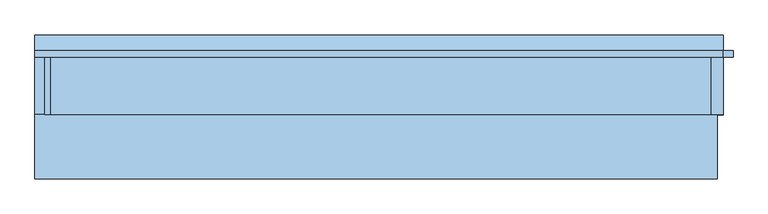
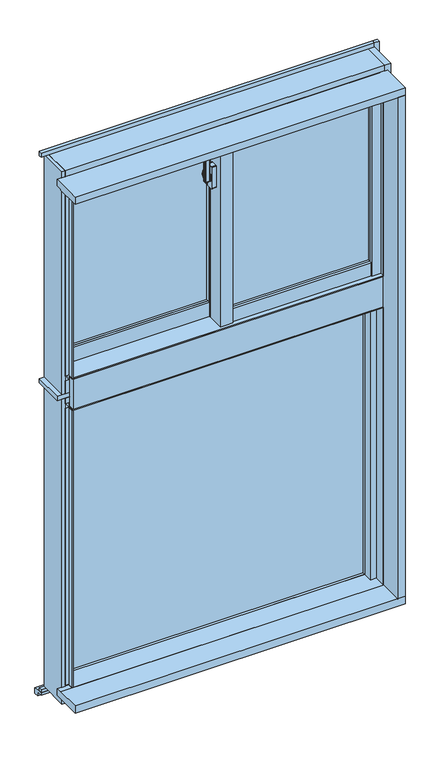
"""IFC4 building model written with IfcOpenShell, lengths in millimetres: window geometry, FNSⅡ100R_非防火_ALC枠_段窓_分解無目 : 隠蔽突出排煙/FIX."""

import ifcopenshell
import ifcopenshell.guid

model = None  # the IFC model being written
_history = None  # IfcOwnerHistory: only IFC2X3 demands one
_inside = {}  # id of a spatial element -> (the spatial element, [elements in it])
_under = {}  # id of a project, library or spatial element -> (it, [spatial elements below it])
_declared = {}  # id of a project -> (the project, [libraries it declares])
_typed = {}  # id of a type object -> (the type object, [elements of that type])
_made_of = {}  # id of a material, layer set ... -> (it, [elements and type objects made of it])


def new_model(schema):
    """Start an empty IFC model of exactly this schema.

    Asked for "IFC4X3", IfcOpenShell would pick the latest addendum, in which some entities
    have other attributes; the version numbers below select the first issue.
    IFC2X3 requires an IfcOwnerHistory on every rooted entity: one is made here for all.
    """
    global model, _history
    if schema == "IFC4X3":
        model = ifcopenshell.file(schema_version=(4, 3, 0, 0))
    else:
        model = ifcopenshell.file(schema=schema)
    _inside.clear()
    _under.clear()
    _declared.clear()
    _typed.clear()
    _made_of.clear()
    _history = None
    if model.schema == "IFC2X3":
        org = make("IfcOrganization", Name="unknown")
        user = make(
            "IfcPersonAndOrganization",
            ThePerson=make("IfcPerson", FamilyName="unknown"),
            TheOrganization=org,
        )
        app = make(
            "IfcApplication",
            ApplicationDeveloper=org,
            Version="unknown",
            ApplicationFullName="unknown",
            ApplicationIdentifier="unknown",
        )
        _history = make(
            "IfcOwnerHistory",
            OwningUser=user,
            OwningApplication=app,
            ChangeAction="ADDED",
            CreationDate=0,
        )
    return model


def make(cls, **values):
    """One entity of the class cls with the attributes given. An attribute that is None is left unset."""
    return model.create_entity(
        cls, **{name: value for name, value in values.items() if value is not None}
    )


def rooted(cls, **values):
    """An entity with a GlobalId (a new one), such as an element, a storey or a relation."""
    return make(cls, GlobalId=ifcopenshell.guid.new(), OwnerHistory=_history, **values)


def si_unit(unit_type, name, prefix=None):
    """IfcSIUnit, for example si_unit("LENGTHUNIT", "METRE", prefix="MILLI")."""
    return make("IfcSIUnit", UnitType=unit_type, Prefix=prefix, Name=name)


def assignment(units):
    """IfcUnitAssignment: the units of a project."""
    return None if units is None else make("IfcUnitAssignment", Units=units)


def point(xyz):
    """IfcCartesianPoint."""
    return None if xyz is None else make("IfcCartesianPoint", Coordinates=xyz)


def direction(xyz):
    """IfcDirection."""
    return None if xyz is None else make("IfcDirection", DirectionRatios=xyz)


def frame(location, z_axis=None, x_axis=None):
    """IfcAxis2Placement3D, a coordinate frame: its origin and axes. An axis left out is left unset."""
    return make(
        "IfcAxis2Placement3D",
        Location=point(location),
        Axis=direction(z_axis),
        RefDirection=direction(x_axis),
    )


def frame_2d(location, x_axis=None):
    """IfcAxis2Placement2D, a coordinate frame in the plane: its origin and x axis."""
    return make(
        "IfcAxis2Placement2D", Location=point(location), RefDirection=direction(x_axis)
    )


def origin():
    """The frame at (0, 0, 0) with its axes left unset."""
    return frame((0.0, 0.0, 0.0))


def place(relative_to, where):
    """IfcLocalPlacement: puts the frame where relative to a parent placement (None: the world)."""
    return make(
        "IfcLocalPlacement", PlacementRelTo=relative_to, RelativePlacement=where
    )


def context(
    kind, dimensions, precision=None, world=None, true_north=None, identifier=None
):
    """IfcGeometricRepresentationContext, for example the 3D "Model" context."""
    return make(
        "IfcGeometricRepresentationContext",
        ContextIdentifier=identifier,
        ContextType=kind,
        CoordinateSpaceDimension=dimensions,
        Precision=precision,
        WorldCoordinateSystem=world,
        TrueNorth=true_north,
    )


def project(units=None, contexts=None):
    """IfcProject with its units and contexts."""
    return rooted(
        "IfcProject",
        Name="project",
        RepresentationContexts=contexts,
        UnitsInContext=assignment(units),
    )


def spatial(cls, under=None, at=None, **own):
    """A site, building, storey or space (cls), placed at a placement, below another one or the project."""
    s = rooted(cls, ObjectPlacement=at, **own)
    if under is not None:
        _under.setdefault(under.id(), (under, []))[1].append(s)
    return s


def polyline(points):
    """IfcPolyline through the points."""
    return make("IfcPolyline", Points=[point(p) for p in points])


def circle_curve(where, radius):
    """IfcCircle in the frame where."""
    return make("IfcCircle", Position=where, Radius=radius)


def trimmed(basis, trim1, trim2, sense, master):
    """IfcTrimmedCurve: the piece of a basis curve between two trims."""
    return make(
        "IfcTrimmedCurve",
        BasisCurve=basis,
        Trim1=trim1,
        Trim2=trim2,
        SenseAgreement=sense,
        MasterRepresentation=master,
    )


def segment(curve, same_sense, transition):
    """IfcCompositeCurveSegment."""
    return make(
        "IfcCompositeCurveSegment",
        Transition=transition,
        SameSense=same_sense,
        ParentCurve=curve,
    )


def composite_curve(segments, self_intersect=None):
    """IfcCompositeCurve: segments joined end to end."""
    return make("IfcCompositeCurve", Segments=segments, SelfIntersect=self_intersect)


def outline(outer, holes=None, kind="AREA"):
    """IfcArbitraryClosedProfileDef: a profile drawn as a closed curve; with holes, ...WithVoids."""
    if holes is None:
        return make("IfcArbitraryClosedProfileDef", ProfileType=kind, OuterCurve=outer)
    return make(
        "IfcArbitraryProfileDefWithVoids",
        ProfileType=kind,
        OuterCurve=outer,
        InnerCurves=holes,
    )


def extrude(swept, where, along, depth):
    """IfcExtrudedAreaSolid: the profile swept, set in the frame where, extruded along a direction by depth."""
    return make(
        "IfcExtrudedAreaSolid",
        SweptArea=swept,
        Position=where,
        ExtrudedDirection=direction(along),
        Depth=depth,
    )


def faces_of(points, faces, orient=None, outer=None):
    """IfcFace entities. A face is a list of loops; a loop is a list of indices into points, from 0.

    orient and outer hold one flag for each loop. By default every Orientation is true, the
    first loop of a face is its IfcFaceOuterBound and the others are IfcFaceBound.
    """
    made = []
    for i, loops in enumerate(faces):
        bounds = []
        for j, loop in enumerate(loops):
            is_outer = j == 0 if outer is None else outer[i][j]
            bounds.append(
                make(
                    "IfcFaceOuterBound" if is_outer else "IfcFaceBound",
                    Bound=make("IfcPolyLoop", Polygon=[points[k] for k in loop]),
                    Orientation=True if orient is None else orient[i][j],
                )
            )
        made.append(make("IfcFace", Bounds=bounds))
    return made


def faceted_brep(points, faces, orient=None, outer=None, voids=None):
    """IfcFacetedBrep: a solid bounded by flat faces; with voids (closed shells), ...WithVoids."""
    shared = [point(p) for p in points]
    hull = make("IfcClosedShell", CfsFaces=faces_of(shared, faces, orient, outer))
    if voids is None:
        return make("IfcFacetedBrep", Outer=hull)
    return make(
        "IfcFacetedBrepWithVoids",
        Outer=hull,
        Voids=[
            make(cls, CfsFaces=faces_of(shared, fs, o, b)) for cls, fs, o, b in voids
        ],
    )


def shape(context_of_items, identifier, shape_type, items):
    """IfcShapeRepresentation: the items that make up one representation, for example the "Body"."""
    return make(
        "IfcShapeRepresentation",
        ContextOfItems=context_of_items,
        RepresentationIdentifier=identifier,
        RepresentationType=shape_type,
        Items=items,
    )


def source(mapping_origin, context_of_items, identifier, shape_type, items):
    """IfcRepresentationMap: a shape defined once, which mapped items show again and again."""
    return make(
        "IfcRepresentationMap",
        MappingOrigin=mapping_origin,
        MappedRepresentation=shape(context_of_items, identifier, shape_type, items),
    )


def transform(
    local_origin,
    x_axis=None,
    y_axis=None,
    z_axis=None,
    scale=None,
    scale2=None,
    scale3=None,
    uniform=True,
):
    """IfcCartesianTransformationOperator3D, or its non-uniform kind. x_axis, y_axis, z_axis: its Axis1, 2, 3."""
    if uniform:
        return make(
            "IfcCartesianTransformationOperator3D",
            Axis1=direction(x_axis),
            Axis2=direction(y_axis),
            LocalOrigin=point(local_origin),
            Scale=scale,
            Axis3=direction(z_axis),
        )
    return make(
        "IfcCartesianTransformationOperator3DnonUniform",
        Axis1=direction(x_axis),
        Axis2=direction(y_axis),
        LocalOrigin=point(local_origin),
        Scale=scale,
        Axis3=direction(z_axis),
        Scale2=scale2,
        Scale3=scale3,
    )


def mapped(mapping_source, mapping_target):
    """IfcMappedItem: shows the shape of a source again, moved by a transform."""
    return make(
        "IfcMappedItem", MappingSource=mapping_source, MappingTarget=mapping_target
    )


def made_of(thing, what):
    """Note that an element or type object is made of a material, layer set ...; save() writes the relation."""
    if what is not None:
        _made_of.setdefault(what.id(), (what, []))[1].append(thing)
    return thing


def element(
    cls,
    number,
    at=None,
    inside=None,
    cuts=None,
    type_object=None,
    material=None,
    context=None,
    identifier="Body",
    shape_type=None,
    held_by="IfcProductDefinitionShape",
    body=None,
    shapes=None,
    **own,
):
    """One element of the class cls, such as IfcWall. Its Tag is "e" and its number.

    at: its placement. inside: the storey or other place that contains it. cuts: it is an
    opening in that element (IfcRelVoidsElement). A single representation is given by context,
    identifier, shape_type and body (its items); several are given by shapes. held_by: the class
    of the entity that holds the representations. save() writes the other relations.
    """
    e = rooted(cls, Tag="e%d" % number, ObjectPlacement=at, **own)
    if body is not None:
        shapes = [shape(context, identifier, shape_type, body)]
    if shapes is not None:
        e.Representation = make(held_by, Representations=shapes)
    if inside is not None:
        _inside.setdefault(inside.id(), (inside, []))[1].append(e)
    if cuts is not None:
        rooted(
            "IfcRelVoidsElement", RelatingBuildingElement=cuts, RelatedOpeningElement=e
        )
    if type_object is not None:
        _typed.setdefault(type_object.id(), (type_object, []))[1].append(e)
    return made_of(e, material)


def aggregate(whole, parts):
    """IfcRelAggregates: a whole, such as a stair, and the parts it consists of."""
    return rooted("IfcRelAggregates", RelatingObject=whole, RelatedObjects=parts)


def save(model, path):
    """Write the relations noted so far, then the file.

    IfcRelAggregates (storeys below a building ...), IfcRelContainedInSpatialStructure (elements
    in a storey), IfcRelDefinesByType, IfcRelAssociatesMaterial and IfcRelDeclares: one each for
    every whole, place, type object, material and project.
    """
    for whole, parts in _under.values():
        aggregate(whole, parts)
    for where, things in _inside.values():
        rooted(
            "IfcRelContainedInSpatialStructure",
            RelatedElements=things,
            RelatingStructure=where,
        )
    for kind, things in _typed.values():
        rooted("IfcRelDefinesByType", RelatedObjects=things, RelatingType=kind)
    for what, things in _made_of.values():
        rooted("IfcRelAssociatesMaterial", RelatedObjects=things, RelatingMaterial=what)
    for by, libraries in _declared.values():
        rooted("IfcRelDeclares", RelatingContext=by, RelatedDefinitions=libraries)
    model.write(path)


def plane_surface(at):
    """IfcPlane: the flat surface through the origin of the frame at, square to its z axis."""
    return make("IfcPlane", Position=at)


def cylinder_surface(at, radius):
    """IfcCylindricalSurface: all points at the distance radius from the z axis of the frame at."""
    return make("IfcCylindricalSurface", Position=at, Radius=radius)


def revolved_surface(curve, axis_point, axis_direction):
    """IfcSurfaceOfRevolution: the curve turned about the line through axis_point along axis_direction."""
    return make(
        "IfcSurfaceOfRevolution",
        SweptCurve=make("IfcArbitraryOpenProfileDef", ProfileType="CURVE", Curve=curve),
        AxisPosition=make("IfcAxis1Placement", Location=point(axis_point), Axis=direction(axis_direction)),
    )


def advanced_brep(points, edges, surfaces, faces):
    """IfcAdvancedBrep: a solid bounded by faces that lie on surfaces and meet in shared edges.

    An edge is (start, end): straight between two places in points (the first is 0);
    or (start, end, curve); or (start, end, curve, False) where it runs against its curve.
    A face is (place in surfaces, loops), or (place, loops, False) where it looks against
    its surface's normal. A loop lists edges by number (the first is 1), with a minus sign
    where the edge is run from its end to its start. The first loop is the outer one.
    """
    corners = [point(p) for p in points]
    vertices = [make("IfcVertexPoint", VertexGeometry=c) for c in corners]
    made = []
    for start, end, *more in edges:
        made.append(
            make(
                "IfcEdgeCurve",
                EdgeStart=vertices[start],
                EdgeEnd=vertices[end],
                EdgeGeometry=more[0] if more else make("IfcPolyline", Points=[corners[start], corners[end]]),
                SameSense=more[1] if len(more) > 1 else True,
            )
        )
    hull = []
    for where, loops, *sense in faces:
        bounds = []
        for j, loop in enumerate(loops):
            ring = [make("IfcOrientedEdge", EdgeElement=made[abs(k) - 1], Orientation=k > 0) for k in loop]
            bounds.append(
                make(
                    "IfcFaceOuterBound" if j == 0 else "IfcFaceBound",
                    Bound=make("IfcEdgeLoop", EdgeList=ring),
                    Orientation=True,
                )
            )
        hull.append(make("IfcAdvancedFace", Bounds=bounds, FaceSurface=surfaces[where], SameSense=sense[0] if sense else True))
    return make("IfcAdvancedBrep", Outer=make("IfcClosedShell", CfsFaces=hull))


def window_ff05695f(model_context):
    return source(origin(), model_context, "Body", "SolidModel", [
        extrude(outline(composite_curve([segment(polyline([(-39.0, 14.6), (-39.0, 6.4)]), True, "CONTINUOUS"), segment(trimmed(circle_curve(frame_2d((-41.0, 6.4)), 2.0), [point((-39.0, 6.4))], [point((-41.3606557, 4.4327869))], False, "CARTESIAN"), True, "CONTINUOUS"), segment(polyline([(-41.3606557, 4.4327869), (-52.3606557, 6.4494536)]), True, "CONTINUOUS"), segment(trimmed(circle_curve(frame_2d((-52.0, 8.4166667)), 2.0), [point((-52.3606557, 6.4494536))], [point((-54.0, 8.4166667))], False, "CARTESIAN"), True, "CONTINUOUS"), segment(polyline([(-54.0, 8.4166667), (-54.0, 12.5833333)]), True, "CONTINUOUS"), segment(trimmed(circle_curve(frame_2d((-52.0, 12.5833333)), 2.0), [point((-54.0, 12.5833333))], [point((-52.3606557, 14.5505464))], False, "CARTESIAN"), True, "CONTINUOUS"), segment(polyline([(-52.3606557, 14.5505464), (-41.3606557, 16.5672131)]), True, "CONTINUOUS"), segment(trimmed(circle_curve(frame_2d((-41.0, 14.6)), 2.0), [point((-41.3606557, 16.5672131))], [point((-39.0, 14.6))], False, "CARTESIAN"), True, "CONTINUOUS")], self_intersect=False)), frame((0.0, 0.0, 2445.0), z_axis=(0.0, 0.0, 1.0), x_axis=(1.0, 0.0, 0.0)), (0.0, 0.0, 1.0), 100.0),
        advanced_brep(
        [(-37.5, 18.8234285, 2476.7333311), (-45.5, 18.8234285, 2476.7333311), (-45.5, 18.4351999, 2475.2844424), (-39.0, 18.4351999, 2475.2844424), (-39.0, 16.6234666, 2468.5229616), (-37.5, 16.6234666, 2468.5229616), (-39.0, 16.6466117, 2434.3190372), (-45.5, 16.6466117, 2434.3190372), (-45.5, 16.907084, 2432.8418256), (-37.5, 16.907084, 2432.8418256), (-37.5, 15.4310745, 2441.2126915), (-39.0, 15.4310745, 2441.2126915)],
        [
            (0, 1),
            (1, 2),
            (2, 3),
            (3, 4),
            (4, 5),
            (5, 0),
            (6, 7),
            (7, 8),
            (8, 9),
            (9, 10),
            (10, 11),
            (11, 6),
            (0, 9, circle_curve(frame((-37.5, 13.0, 2455.0), z_axis=(-1.0, 0.0, 0.0), x_axis=(0.0, 0.25881904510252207, 0.965925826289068)), 22.5)),
            (8, 1, circle_curve(frame((-45.5, 13.0, 2455.0), z_axis=(1.0, 0.0, 0.0), x_axis=(0.0, 0.25881904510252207, 0.965925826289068)), 22.5)),
            (7, 2, circle_curve(frame((-45.5, 13.0, 2455.0), z_axis=(1.0, 0.0, 0.0), x_axis=(0.0, 0.25881904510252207, 0.965925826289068)), 21.0)),
            (6, 3, circle_curve(frame((-39.0, 13.0, 2455.0), z_axis=(1.0, 0.0, 0.0), x_axis=(0.0, 0.25881904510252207, 0.965925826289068)), 21.0)),
            (11, 4, circle_curve(frame((-39.0, 13.0, 2455.0), z_axis=(-1.0, 0.0, 0.0), x_axis=(0.0, -1.0, 0.0)), 14.0)),
            (5, 10, circle_curve(frame((-37.5, 13.0, 2455.0), z_axis=(1.0, 0.0, 0.0), x_axis=(0.0, -1.0, 0.0)), 14.0)),
        ],
        [
            plane_surface(frame((-43.5470497, 13.0, 2455.0), z_axis=(0.0, -0.965925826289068, 0.25881904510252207), x_axis=(0.0, 0.25881904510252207, 0.965925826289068))),
            plane_surface(frame((-43.5470497, 13.0, 2455.0), z_axis=(0.0, -0.9848077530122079, -0.17364817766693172), x_axis=(0.0, 0.17364817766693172, -0.9848077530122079))),
            cylinder_surface(frame((-43.5470497, 13.0, 2455.0), z_axis=(-1.0, 0.0, 0.0), x_axis=(0.0, 0.25881904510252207, 0.965925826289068)), 22.5),
            plane_surface(frame((-45.5, 13.0, 2455.0), z_axis=(-1.0, 0.0, 0.0), x_axis=(0.0, 0.25881904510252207, 0.965925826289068))),
            revolved_surface(polyline([(-45.5, 18.435199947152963, 2475.2844423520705), (-39.0, 18.435199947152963, 2475.2844423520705)]), (-43.5470497, 13.0, 2455.0), (-1.0, 0.0, 0.0)),
            plane_surface(frame((-39.0, 13.0, 2455.0), z_axis=(-1.0, 0.0, 0.0), x_axis=(0.0, 0.25881904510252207, 0.965925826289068))),
            plane_surface(frame((-37.5, 13.0, 2455.0), z_axis=(1.0, 0.0, 0.0), x_axis=(0.0, 0.25881904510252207, 0.965925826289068))),
            cylinder_surface(frame((-37.5, 13.0, 2455.0), z_axis=(-1.0, 0.0, 0.0), x_axis=(0.0, -1.0, 0.0)), 14.0),
        ],
        [
            (0, [[1, 2, 3, 4, 5, 6]]),
            (1, [[7, 8, 9, 10, 11, 12]]),
            (2, [[-1, 13, -9, 14]]),
            (3, [[-2, -14, -8, 15]]),
            (4, [[-3, -15, -7, 16]]),
            (5, [[-16, -12, 17, -4]]),
            (6, [[-13, -6, 18, -10]]),
            (7, [[-17, -11, -18, -5]]),
        ],
    ),
        extrude(outline(composite_curve([segment(trimmed(circle_curve(frame_2d((13.0, 2455.0)), 11.5), [point((24.5, 2455.0))], [point((1.5, 2455.0))], False, "CARTESIAN"), True, "CONTINUOUS"), segment(trimmed(circle_curve(frame_2d((13.0, 2455.0)), 11.5), [point((1.5, 2455.0))], [point((24.5, 2455.0))], False, "CARTESIAN"), True, "CONTINUOUS")], self_intersect=False)), frame((-37.5, 0.0, 0.0), z_axis=(1.0, 0.0, 0.0), x_axis=(0.0, 1.0, 0.0)), (0.0, 0.0, 1.0), 2.5),
        extrude(outline(composite_curve([segment(polyline([(4.0, 2492.5), (22.0, 2492.5)]), True, "CONTINUOUS"), segment(trimmed(circle_curve(frame_2d((22.0, 2490.5)), 2.0), [point((22.0, 2492.5))], [point((24.0, 2490.5))], False, "CARTESIAN"), True, "CONTINUOUS"), segment(polyline([(24.0, 2490.5), (24.0, 2419.5)]), True, "CONTINUOUS"), segment(trimmed(circle_curve(frame_2d((22.0, 2419.5)), 2.0), [point((24.0, 2419.5))], [point((22.0, 2417.5))], False, "CARTESIAN"), True, "CONTINUOUS"), segment(polyline([(22.0, 2417.5), (4.0, 2417.5)]), True, "CONTINUOUS"), segment(trimmed(circle_curve(frame_2d((4.0, 2419.5)), 2.0), [point((4.0, 2417.5))], [point((2.0, 2419.5))], False, "CARTESIAN"), True, "CONTINUOUS"), segment(polyline([(2.0, 2419.5), (2.0, 2490.5)]), True, "CONTINUOUS"), segment(trimmed(circle_curve(frame_2d((4.0, 2490.5)), 2.0), [point((2.0, 2490.5))], [point((4.0, 2492.5))], False, "CARTESIAN"), True, "CONTINUOUS")], self_intersect=False)), frame((-35.0, 0.0, 0.0), z_axis=(1.0, 0.0, 0.0), x_axis=(0.0, 1.0, 0.0)), (0.0, 0.0, 1.0), 15.0),
        extrude(outline(polyline([(20.0, 4.0), (468.0, 4.0), (468.0, -2.0), (20.0, -2.0), (20.0, 4.0)])), frame((0.0, 0.0, 2003.0), z_axis=(0.0, 0.0, 1.0), x_axis=(1.0, 0.0, 0.0)), (0.0, 0.0, 1.0), 567.0),
        extrude(outline(polyline([(20.0, 22.0), (468.0, 22.0), (468.0, 16.0), (20.0, 16.0), (20.0, 22.0)])), frame((0.0, 0.0, 2003.0), z_axis=(0.0, 0.0, 1.0), x_axis=(1.0, 0.0, 0.0)), (0.0, 0.0, 1.0), 567.0),
        extrude(outline(polyline([(-468.0, 62.0), (-20.0, 62.0), (-20.0, 56.0), (-468.0, 56.0), (-468.0, 62.0)])), frame((0.0, 0.0, 2003.0), z_axis=(0.0, 0.0, 1.0), x_axis=(1.0, 0.0, 0.0)), (0.0, 0.0, 1.0), 567.0),
        extrude(outline(polyline([(-468.0, 80.0), (-20.0, 80.0), (-20.0, 74.0), (-468.0, 74.0), (-468.0, 80.0)])), frame((0.0, 0.0, 2003.0), z_axis=(0.0, 0.0, 1.0), x_axis=(1.0, 0.0, 0.0)), (0.0, 0.0, 1.0), 567.0),
        faceted_brep([(-489.5, 59.0, 2610.0), (-500.0, 59.0, 2610.0), (-500.0, 59.0, 1915.0), (-468.0, 59.0, 1915.0), (-468.0, 59.0, 1955.0), (-489.5, 59.0, 1955.0), (-489.5, 46.0, 2610.0), (-489.5, 46.0, 1955.0), (-468.0, 88.0, 2610.0), (-468.0, 46.0, 2610.0), (-468.0, 46.0, 1955.0), (-468.0, 88.0, 1915.0), (-500.0, 88.0, 2610.0), (-500.0, 88.0, 1915.0)], [[[0, 1, 2, 3, 4, 5]], [[6, 0, 5, 7]], [[8, 9, 10, 4, 3, 11]], [[1, 0, 6, 9, 8, 12]], [[3, 2, 13, 11]], [[9, 6, 7, 10]], [[12, 8, 11, 13]], [[2, 1, 12, 13]], [[5, 4, 10, 7]]]),
        faceted_brep([(-1.8, 33.1, 2610.0), (-1.8, 45.5, 2610.0), (-1.8, 45.5, 1955.0), (-1.8, 33.1, 1955.0), (-20.0, 45.5, 2610.0), (20.0, 33.1, 2610.0), (20.0, 88.0, 2610.0), (-20.0, 88.0, 2610.0), (-20.0, 88.0, 1915.0), (20.0, 88.0, 1915.0), (20.0, 59.0, 1915.0), (-20.0, 59.0, 1915.0), (-20.0, 45.5, 1955.0), (20.0, 33.1, 1955.0), (20.0, 59.0, 1955.0), (-20.0, 59.0, 1955.0)], [[[0, 1, 2, 3]], [[4, 1, 0, 5, 6, 7]], [[8, 9, 10, 11]], [[1, 4, 12, 2]], [[5, 0, 3, 13]], [[6, 5, 13, 14, 10, 9]], [[7, 6, 9, 8]], [[4, 7, 8, 11, 15, 12]], [[14, 15, 11, 10]], [[15, 14, 13, 3, 2, 12]]]),
        extrude(outline(polyline([(-20.0, 33.1), (-15.0, 33.1), (-15.0, -12.0), (15.0, -12.0), (15.0, -8.0), (20.0, -8.0), (20.0, -20.0), (-20.0, -20.0), (-20.0, 33.1)])), frame((0.0, 0.0, 1955.0), z_axis=(0.0, 0.0, 1.0), x_axis=(1.0, 0.0, 0.0)), (0.0, 0.0, 1.0), 655.0),
        extrude(outline(polyline([(-15.0, 33.1), (20.0, 33.1), (20.0, -8.0), (15.0, -8.0), (15.0, -12.0), (-15.0, -12.0), (-15.0, 33.1)])), frame((0.0, 0.0, 1955.0), z_axis=(0.0, 0.0, 1.0), x_axis=(1.0, 0.0, 0.0)), (0.0, 0.0, 1.0), 655.0),
        extrude(outline(polyline([(468.0, -20.0), (468.0, -12.0), (489.5, -12.0), (489.5, 1.0), (497.0, 1.0), (497.0, -20.0), (468.0, -20.0)])), frame((0.0, 0.0, 1958.0), z_axis=(0.0, 0.0, 1.0), x_axis=(1.0, 0.0, 0.0)), (0.0, 0.0, 1.0), 652.0),
        extrude(outline(polyline([(468.0, 30.0), (500.0, 30.0), (500.0, 1.0), (489.5, 1.0), (489.5, -12.0), (468.0, -12.0), (468.0, 30.0)])), frame((0.0, 0.0, 1955.0), z_axis=(0.0, 0.0, 1.0), x_axis=(1.0, 0.0, 0.0)), (0.0, 0.0, 1.0), 655.0),
        extrude(outline(polyline([(-1.85, 45.5), (-1.85, 38.0), (-20.0, 38.0), (-20.0, 45.5), (-1.85, 45.5)])), frame((0.0, 0.0, 1955.0), z_axis=(0.0, 0.0, 1.0), x_axis=(1.0, 0.0, 0.0)), (0.0, 0.0, 1.0), 655.0),
        extrude(outline(polyline([(-497.0, 59.0), (-489.5, 59.0), (-489.5, 46.0), (-468.0, 46.0), (-468.0, 38.0), (-497.0, 38.0), (-497.0, 59.0)])), frame((0.0, 0.0, 1955.0), z_axis=(0.0, 0.0, 1.0), x_axis=(1.0, 0.0, 0.0)), (0.0, 0.0, 1.0), 655.0),
        extrude(outline(polyline([(-18.0, 1958.0), (-18.0, 2003.0), (-10.0, 2003.0), (-10.0, 1980.5), (1.0, 1980.5), (1.0, 1958.0), (-18.0, 1958.0)])), frame((20.0, 0.0, 0.0), z_axis=(1.0, 0.0, 0.0), x_axis=(0.0, 1.0, 0.0)), (0.0, 0.0, 1.0), 448.0),
        extrude(outline(polyline([(30.0, 1955.0), (1.0, 1955.0), (1.0, 1980.5), (-10.0, 1980.5), (-10.0, 2003.0), (30.0, 2003.0), (30.0, 1955.0)])), frame((20.0, 0.0, 0.0), z_axis=(1.0, 0.0, 0.0), x_axis=(0.0, 1.0, 0.0)), (0.0, 0.0, 1.0), 448.0),
        extrude(outline(polyline([(40.0, 2003.0), (48.0, 2003.0), (48.0, 1980.5), (59.0, 1980.5), (59.0, 1955.0), (40.0, 1955.0), (40.0, 2003.0)])), frame((-468.0, 0.0, 0.0), z_axis=(1.0, 0.0, 0.0), x_axis=(0.0, 1.0, 0.0)), (0.0, 0.0, 1.0), 448.0),
        extrude(outline(polyline([(88.0, 1915.0), (59.0, 1915.0), (59.0, 1980.5), (48.0, 1980.5), (48.0, 2003.0), (88.0, 2003.0), (88.0, 1915.0)])), frame((-468.0, 0.0, 0.0), z_axis=(1.0, 0.0, 0.0), x_axis=(0.0, 1.0, 0.0)), (0.0, 0.0, 1.0), 448.0),
        extrude(outline(polyline([(3.0, 2590.5), (-10.0, 2590.5), (-10.0, 2570.0), (-18.0, 2570.0), (-18.0, 2610.0), (3.0, 2610.0), (3.0, 2590.5)])), frame((20.0, 0.0, 0.0), z_axis=(1.0, 0.0, 0.0), x_axis=(0.0, 1.0, 0.0)), (0.0, 0.0, 1.0), 448.0),
        extrude(outline(polyline([(30.0, 2610.0), (30.0, 2570.0), (-10.0, 2570.0), (-10.0, 2590.5), (3.0, 2590.5), (3.0, 2610.0), (30.0, 2610.0)])), frame((20.0, 0.0, 0.0), z_axis=(1.0, 0.0, 0.0), x_axis=(0.0, 1.0, 0.0)), (0.0, 0.0, 1.0), 448.0),
        extrude(outline(polyline([(61.0, 2590.5), (48.0, 2590.5), (48.0, 2570.0), (40.0, 2570.0), (40.0, 2610.0), (61.0, 2610.0), (61.0, 2590.5)])), frame((-468.0, 0.0, 0.0), z_axis=(1.0, 0.0, 0.0), x_axis=(0.0, 1.0, 0.0)), (0.0, 0.0, 1.0), 448.0),
        extrude(outline(polyline([(88.0, 2610.0), (88.0, 2570.0), (48.0, 2570.0), (48.0, 2590.5), (61.0, 2590.5), (61.0, 2610.0), (88.0, 2610.0)])), frame((-468.0, 0.0, 0.0), z_axis=(1.0, 0.0, 0.0), x_axis=(0.0, 1.0, 0.0)), (0.0, 0.0, 1.0), 448.0),
        extrude(outline(polyline([(-15.0, 60.3), (-15.0, 11.9), (-500.0, 11.9), (-500.0, 60.3), (-15.0, 60.3)])), frame((0.0, 0.0, 2610.0), z_axis=(0.0, 0.0, 1.0), x_axis=(1.0, 0.0, 0.0)), (0.0, 0.0, 1.0), 25.0),
        faceted_brep([(515.0, -10.0, 2635.0), (515.0, -10.0, 2655.0), (-515.0, -10.0, 2655.0), (-515.0, -10.0, 2635.0), (-515.0, 90.0, 2610.0), (-515.0, 60.3, 2610.0), (-515.0, 60.3, 2635.0), (-515.0, 90.0, 2655.0), (515.0, 60.3, 2635.0), (-15.0, 60.3, 2635.0), (-15.0, 11.9, 2635.0), (500.0, 11.9, 2635.0), (500.0, 60.3, 2635.0), (-15.0, 60.3, 2610.0), (515.0, 60.3, 2610.0), (500.0, 60.3, 2610.0), (515.0, 90.0, 2610.0), (500.0, 11.9, 2610.0), (-15.0, 11.9, 2610.0), (515.0, 90.0, 2655.0)], [[[0, 1, 2, 3]], [[4, 5, 6, 3, 2, 7]], [[8, 0, 3, 6, 9, 10, 11, 12]], [[6, 5, 13, 9]], [[14, 8, 12, 15]], [[16, 14, 15, 17, 18, 13, 5, 4]], [[19, 16, 4, 7]], [[1, 19, 7, 2]], [[16, 19, 1, 0, 8, 14]], [[11, 17, 15, 12]], [[13, 18, 10, 9]], [[17, 11, 10, 18]]]),
        extrude(outline(polyline([(11.9, 2610.0), (-30.0, 2610.0), (-30.0, 2613.0), (-10.0, 2613.0), (-10.0, 2635.0), (11.9, 2635.0), (11.9, 2610.0)])), frame((-500.0, 0.0, 0.0), z_axis=(1.0, 0.0, 0.0), x_axis=(0.0, 1.0, 0.0)), (0.0, 0.0, 1.0), 1000.0),
        faceted_brep([(500.0, -10.0, 2630.0), (515.0, -10.0, 2630.0), (515.0, -5.5, 2630.0), (500.0, -5.5, 2630.0), (500.0, -30.0, 1955.0), (503.0, -30.0, 1955.0), (503.0, -30.0, 2613.0), (500.0, -30.0, 2613.0), (515.0, -5.5, 1955.0), (500.0, -5.5, 1955.0), (500.0, -10.0, 2613.0), (503.0, -10.0, 2613.0), (515.0, -10.0, 1955.0), (503.0, -10.0, 1955.0)], [[[0, 1, 2, 3]], [[4, 5, 6, 7]], [[3, 2, 8, 9]], [[9, 4, 7, 10, 0, 3]], [[11, 10, 7, 6]], [[4, 9, 8, 12, 13, 5]], [[5, 13, 11, 6]], [[0, 10, 11, 13, 12, 1]], [[2, 1, 12, 8]]]),
        faceted_brep([(-515.0, -10.0, 1955.0), (-503.0, -10.0, 1955.0), (-503.0, -10.0, 2613.0), (-500.0, -10.0, 2613.0), (-500.0, -10.0, 2630.0), (-515.0, -10.0, 2630.0), (-503.0, -30.0, 2613.0), (-500.0, -30.0, 2613.0), (-515.0, 56.0, 2630.0), (-500.0, 56.0, 2630.0), (-500.0, 56.0, 1955.0), (-515.0, 56.0, 1955.0), (-500.0, -30.0, 1955.0), (-503.0, -30.0, 1955.0)], [[[0, 1, 2, 3, 4, 5]], [[3, 2, 6, 7]], [[8, 9, 10, 11]], [[5, 4, 9, 8]], [[0, 11, 10, 12, 13, 1]], [[1, 13, 6, 2]], [[13, 12, 7, 6]], [[12, 10, 9, 4, 3, 7]], [[0, 5, 8, 11]]]),
        faceted_brep([(515.0, -5.5, 2610.0), (500.0, -5.5, 2610.0), (500.0, -5.5, 1904.0), (515.0, -5.5, 1904.0), (515.0, 90.0, 2655.0), (535.0, 90.0, 2655.0), (535.0, 90.0, 1895.0), (515.0, 90.0, 1895.0), (515.0, 90.0, 1904.0), (500.0, 90.0, 1904.0), (500.0, 90.0, 2610.0), (515.0, 90.0, 2610.0), (515.0, -10.0, 2655.0), (515.0, -10.0, 1895.0), (535.0, -10.0, 2655.0), (535.0, -10.0, 1895.0)], [[[0, 1, 2, 3]], [[4, 5, 6, 7, 8, 9, 10, 11]], [[12, 4, 11, 0, 3, 8, 7, 13]], [[12, 14, 5, 4]], [[13, 7, 6, 15]], [[2, 9, 8, 3]], [[1, 10, 9, 2]], [[1, 0, 11, 10]], [[14, 12, 13, 15]], [[5, 14, 15, 6]]]),
        faceted_brep([(-500.0, 56.0, 2610.0), (-515.0, 56.0, 2610.0), (-515.0, 56.0, 1904.0), (-500.0, 56.0, 1904.0), (-525.0, 90.0, 2655.0), (-525.0, -10.0, 2655.0), (-515.0, -10.0, 2655.0), (-515.0, 90.0, 2655.0), (-525.0, 90.0, 1895.0), (-515.0, 90.0, 1895.0), (-515.0, -10.0, 1895.0), (-525.0, -10.0, 1895.0), (-500.0, 90.0, 1904.0), (-515.0, 90.0, 1904.0), (-515.0, 90.0, 2610.0), (-500.0, 90.0, 2610.0)], [[[0, 1, 2, 3]], [[4, 5, 6, 7]], [[8, 9, 10, 11]], [[6, 5, 11, 10]], [[12, 3, 2, 13]], [[5, 4, 8, 11]], [[7, 6, 10, 9, 13, 2, 1, 14]], [[4, 7, 14, 15, 12, 13, 9, 8]], [[15, 14, 1, 0]], [[15, 0, 3, 12]]]),
        faceted_brep([(515.0, 56.0, 1939.0), (515.0, 56.0, 1904.0), (-515.0, 56.0, 1904.0), (-515.0, 56.0, 1939.0), (515.0, 90.0, 1904.0), (-515.0, 90.0, 1904.0), (515.0, 90.0, 1895.0), (515.0, -10.0, 1895.0), (-515.0, -10.0, 1895.0), (-515.0, 90.0, 1895.0), (515.0, -10.0, 1939.0), (-515.0, -10.0, 1939.0), (500.0, 17.25, 1939.0), (500.0, -1.2, 1939.0), (-15.0, -1.2, 1939.0), (-15.0, 17.25, 1939.0), (500.0, -1.2, 1955.0), (500.0, 17.25, 1955.0), (-15.0, -1.2, 1955.0), (-15.0, 17.25, 1955.0)], [[[0, 1, 2, 3]], [[1, 4, 5, 2]], [[6, 7, 8, 9]], [[10, 0, 3, 11], [12, 13, 14, 15]], [[6, 4, 1, 0, 10, 7]], [[9, 8, 11, 3, 2, 5]], [[7, 10, 11, 8]], [[4, 6, 9, 5]], [[16, 13, 12, 17]], [[18, 19, 15, 14]], [[13, 16, 18, 14]], [[17, 12, 15, 19]], [[16, 17, 19, 18]]]),
        faceted_brep([(503.0, -30.0, 1955.0), (503.0, -30.0, 1952.0), (503.0, -10.0, 1952.0), (503.0, -10.0, 1939.0), (503.0, -5.5, 1939.0), (503.0, -5.5, 1955.0), (-503.0, -10.0, 1939.0), (-503.0, -10.0, 1952.0), (-503.0, -30.0, 1952.0), (-503.0, -30.0, 1955.0), (-503.0, -1.2, 1955.0), (-503.0, -1.2, 1939.0), (500.0, -5.5, 1955.0), (500.0, -1.2, 1955.0), (-15.0, -1.2, 1955.0), (-15.0, 56.0, 1955.0), (-500.0, 56.0, 1955.0), (-500.0, -1.2, 1955.0), (-500.0, -1.2, 1939.0), (-500.0, 56.0, 1939.0), (-15.0, 56.0, 1939.0), (-15.0, -1.2, 1939.0), (500.0, -1.2, 1939.0), (500.0, -5.5, 1939.0)], [[[0, 1, 2, 3, 4, 5]], [[6, 7, 8, 9, 10, 11]], [[3, 2, 7, 6]], [[2, 1, 8, 7]], [[1, 0, 9, 8]], [[10, 9, 0, 5, 12, 13, 14, 15, 16, 17]], [[6, 11, 18, 19, 20, 21, 22, 23, 4, 3]], [[13, 22, 21, 14]], [[11, 10, 17, 18]], [[12, 23, 22, 13]], [[23, 12, 5, 4]], [[15, 14, 21, 20]], [[16, 19, 18, 17]], [[15, 20, 19, 16]]]),
        extrude(outline(polyline([(-480.0, 55.6), (480.0, 55.6), (480.0, 49.6), (-480.0, 49.6), (-480.0, 55.6)])), frame((0.0, 0.0, 900.0), z_axis=(0.0, 0.0, 1.0), x_axis=(1.0, 0.0, 0.0)), (0.0, 0.0, 1.0), 925.0),
        extrude(outline(polyline([(-480.0, 73.6), (480.0, 73.6), (480.0, 67.6), (-480.0, 67.6), (-480.0, 73.6)])), frame((0.0, 0.0, 900.0), z_axis=(0.0, 0.0, 1.0), x_axis=(1.0, 0.0, 0.0)), (0.0, 0.0, 1.0), 925.0),
        faceted_brep([(-525.0, 90.0, 1880.0), (-525.0, -10.0, 1880.0), (-515.0, -10.0, 1880.0), (-515.0, 90.0, 1880.0), (-525.0, 90.0, 840.0), (-515.0, 90.0, 840.0), (-515.0, -10.0, 840.0), (-525.0, -10.0, 840.0), (-515.0, 90.0, 900.0), (-515.0, 40.0, 900.0), (-515.0, 40.0, 1825.0), (-515.0, 90.0, 1825.0), (-480.0, 90.0, 1825.0), (-480.0, 90.0, 900.0), (-480.0, 40.0, 1825.0), (-480.0, 40.0, 900.0)], [[[0, 1, 2, 3]], [[4, 5, 6, 7]], [[1, 0, 4, 7]], [[2, 1, 7, 6]], [[3, 2, 6, 5, 8, 9, 10, 11]], [[0, 3, 11, 12, 13, 8, 5, 4]], [[12, 11, 10, 14]], [[13, 15, 9, 8]], [[14, 10, 9, 15]], [[12, 14, 15, 13]]]),
        faceted_brep([(535.0, 90.0, 1880.0), (515.0, 90.0, 1880.0), (515.0, -10.0, 1880.0), (535.0, -10.0, 1880.0), (535.0, 90.0, 840.0), (535.0, -10.0, 840.0), (515.0, -10.0, 840.0), (515.0, 90.0, 840.0), (515.0, 90.0, 900.0), (480.0, 90.0, 900.0), (480.0, 90.0, 1825.0), (515.0, 90.0, 1825.0), (515.0, 40.0, 1825.0), (515.0, 40.0, 900.0), (480.0, 40.0, 1825.0), (480.0, 40.0, 900.0)], [[[0, 1, 2, 3]], [[4, 5, 6, 7]], [[1, 0, 4, 7, 8, 9, 10, 11]], [[2, 1, 11, 12, 13, 8, 7, 6]], [[3, 2, 6, 5]], [[0, 3, 5, 4]], [[11, 10, 14, 12]], [[13, 15, 9, 8]], [[14, 10, 9, 15]], [[12, 14, 15, 13]]]),
        extrude(outline(polyline([(500.0, -30.0), (500.0, 8.5), (480.0, 8.5), (480.0, 40.0), (515.0, 40.0), (515.0, -10.0), (503.0, -10.0), (503.0, -30.0), (500.0, -30.0)])), frame((0.0, 0.0, 900.0), z_axis=(0.0, 0.0, 1.0), x_axis=(1.0, 0.0, 0.0)), (0.0, 0.0, 1.0), 945.0),
        extrude(outline(polyline([(-515.0, -10.0), (-515.0, 40.0), (-480.0, 40.0), (-480.0, 8.5), (-500.0, 8.5), (-500.0, -30.0), (-503.0, -30.0), (-503.0, -10.0), (-515.0, -10.0)])), frame((0.0, 0.0, 900.0), z_axis=(0.0, 0.0, 1.0), x_axis=(1.0, 0.0, 0.0)), (0.0, 0.0, 1.0), 945.0),
        extrude(outline(polyline([(-10.0, 884.0), (-10.0, 897.0), (-30.0, 897.0), (-30.0, 900.0), (40.0, 900.0), (40.0, 884.0), (-10.0, 884.0)])), frame((-503.0, 0.0, 0.0), z_axis=(1.0, 0.0, 0.0), x_axis=(0.0, 1.0, 0.0)), (0.0, 0.0, 1.0), 1006.0),
        extrude(outline(polyline([(90.0, 840.0), (-10.0, 840.0), (-10.0, 884.0), (40.0, 884.0), (40.0, 900.0), (90.0, 900.0), (90.0, 870.0), (71.0, 870.0), (71.0, 850.0), (90.0, 850.0), (90.0, 840.0)])), frame((-515.0, 0.0, 0.0), z_axis=(1.0, 0.0, 0.0), x_axis=(0.0, 1.0, 0.0)), (0.0, 0.0, 1.0), 1030.0),
        extrude(outline(polyline([(40.0, 1822.0), (6.0, 1822.0), (6.0, 1845.0), (-30.0, 1845.0), (-30.0, 1848.0), (-10.0, 1848.0), (-10.0, 1860.0), (40.0, 1860.0), (40.0, 1822.0)])), frame((-503.0, 0.0, 0.0), z_axis=(1.0, 0.0, 0.0), x_axis=(0.0, 1.0, 0.0)), (0.0, 0.0, 1.0), 1006.0),
        extrude(outline(polyline([(90.0, 1825.0), (40.0, 1825.0), (40.0, 1860.0), (-10.0, 1860.0), (-10.0, 1880.0), (90.0, 1880.0), (90.0, 1825.0)])), frame((-515.0, 0.0, 0.0), z_axis=(1.0, 0.0, 0.0), x_axis=(0.0, 1.0, 0.0)), (0.0, 0.0, 1.0), 1030.0),
        extrude(outline(polyline([(-110.0, 900.0), (-30.0, 900.0), (-30.0, 897.0), (-10.0, 897.0), (-10.0, 875.0), (-110.0, 875.0), (-110.0, 900.0)])), frame((-540.0, 0.0, 0.0), z_axis=(1.0, 0.0, 0.0), x_axis=(0.0, 1.0, 0.0)), (0.0, 0.0, 1.0), 1065.0),
        extrude(outline(polyline([(-540.0, 80.0), (-540.0, 90.0), (535.0, 90.0), (535.0, 80.0), (-540.0, 80.0)])), frame((0.0, 0.0, 830.0), z_axis=(0.0, 0.0, 1.0), x_axis=(1.0, 0.0, 0.0)), (0.0, 0.0, 1.0), 10.0),
        extrude(outline(polyline([(100.0, 807.0), (100.0, 820.0), (80.0, 820.0), (80.0, 830.0), (90.0, 830.0), (115.0, 825.0), (115.0, 807.0), (100.0, 807.0)])), frame((-540.0, 0.0, 0.0), z_axis=(1.0, 0.0, 0.0), x_axis=(0.0, 1.0, 0.0)), (0.0, 0.0, 1.0), 1075.0),
        extrude(outline(polyline([(525.0, -10.0), (525.0, -110.0), (500.0, -110.0), (500.0, -30.0), (503.0, -30.0), (503.0, -10.0), (525.0, -10.0)])), frame((0.0, 0.0, 900.0), z_axis=(0.0, 0.0, 1.0), x_axis=(1.0, 0.0, 0.0)), (0.0, 0.0, 1.0), 1710.0),
        extrude(outline(polyline([(550.0, 90.0), (550.0, 80.0), (535.0, 80.0), (535.0, 90.0), (550.0, 90.0)])), frame((0.0, 0.0, 820.0), z_axis=(0.0, 0.0, 1.0), x_axis=(1.0, 0.0, 0.0)), (0.0, 0.0, 1.0), 1850.0),
        extrude(outline(polyline([(-110.0, 2635.0), (-10.0, 2635.0), (-10.0, 2613.0), (-30.0, 2613.0), (-30.0, 2610.0), (-110.0, 2610.0), (-110.0, 2635.0)])), frame((-540.0, 0.0, 0.0), z_axis=(1.0, 0.0, 0.0), x_axis=(0.0, 1.0, 0.0)), (0.0, 0.0, 1.0), 1065.0),
        extrude(outline(polyline([(-500.0, -30.0), (-500.0, -10.0), (500.0, -10.0), (500.0, -30.0), (-500.0, -30.0)])), frame((0.0, 0.0, 1848.0), z_axis=(0.0, 0.0, 1.0), x_axis=(1.0, 0.0, 0.0)), (0.0, 0.0, 1.0), 104.0),
        extrude(outline(polyline([(-540.0, -10.0), (-540.0, 90.0), (535.0, 90.0), (535.0, -10.0), (-540.0, -10.0)])), frame((0.0, 0.0, 1880.0), z_axis=(0.0, 0.0, 1.0), x_axis=(1.0, 0.0, 0.0)), (0.0, 0.0, 1.0), 15.0),
        extrude(outline(polyline([(-540.0, 80.0), (-540.0, 90.0), (535.0, 90.0), (535.0, 80.0), (-540.0, 80.0)])), frame((0.0, 0.0, 2655.0), z_axis=(0.0, 0.0, 1.0), x_axis=(1.0, 0.0, 0.0)), (0.0, 0.0, 1.0), 15.0),
    ])


if __name__ == "__main__":
    model = new_model("IFC4")
    model_context = context("Model", 3, world=origin())
    ifc_project = project(units=[si_unit("LENGTHUNIT", "METRE", prefix="MILLI")], contexts=[model_context])
    site = spatial("IfcSite", under=ifc_project)
    building = spatial("IfcBuilding", under=site)
    placement = place(None, origin())
    window_shape = window_ff05695f(model_context)
    element("IfcWindow", 1, ObjectType="FNSⅡ100R_非防火_ALC枠_段窓_分解無目 : 隠蔽突出排煙/FIX", at=placement, inside=building, context=model_context, shape_type="MappedRepresentation", body=[
        mapped(window_shape, transform((0.0, 0.0, 0.0), x_axis=(1.0, 0.0, 0.0), y_axis=(0.0, 1.0, 0.0), z_axis=(0.0, 0.0, 1.0))),
    ])
    save(model, "model.ifc")
